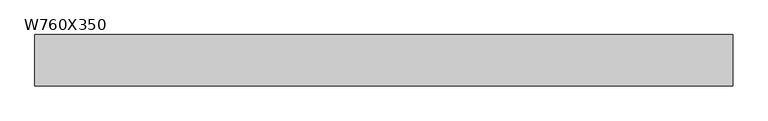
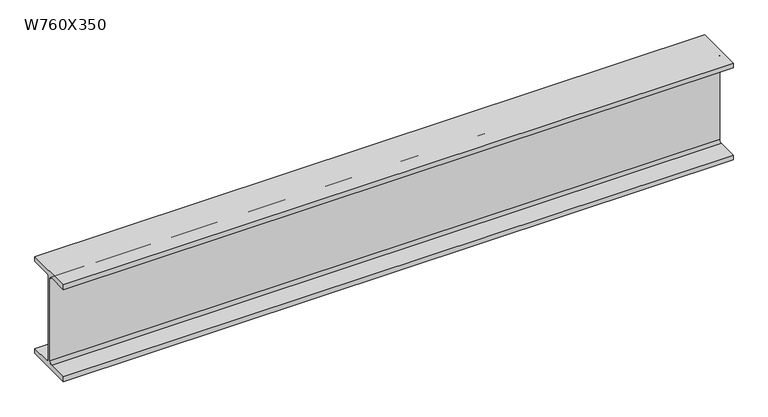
"""IFC4 building model written with IfcOpenShell, lengths in millimetres: beam geometry, M_W-Wide Flange : W760X350."""

import ifcopenshell
import ifcopenshell.guid

model = None  # the IFC model being written
_history = None  # IfcOwnerHistory: only IFC2X3 demands one
_inside = {}  # id of a spatial element -> (the spatial element, [elements in it])
_under = {}  # id of a project, library or spatial element -> (it, [spatial elements below it])
_declared = {}  # id of a project -> (the project, [libraries it declares])
_typed = {}  # id of a type object -> (the type object, [elements of that type])
_made_of = {}  # id of a material, layer set ... -> (it, [elements and type objects made of it])


def new_model(schema):
    """Start an empty IFC model of exactly this schema.

    Asked for "IFC4X3", IfcOpenShell would pick the latest addendum, in which some entities
    have other attributes; the version numbers below select the first issue.
    IFC2X3 requires an IfcOwnerHistory on every rooted entity: one is made here for all.
    """
    global model, _history
    if schema == "IFC4X3":
        model = ifcopenshell.file(schema_version=(4, 3, 0, 0))
    else:
        model = ifcopenshell.file(schema=schema)
    _inside.clear()
    _under.clear()
    _declared.clear()
    _typed.clear()
    _made_of.clear()
    _history = None
    if model.schema == "IFC2X3":
        org = make("IfcOrganization", Name="unknown")
        user = make(
            "IfcPersonAndOrganization",
            ThePerson=make("IfcPerson", FamilyName="unknown"),
            TheOrganization=org,
        )
        app = make(
            "IfcApplication",
            ApplicationDeveloper=org,
            Version="unknown",
            ApplicationFullName="unknown",
            ApplicationIdentifier="unknown",
        )
        _history = make(
            "IfcOwnerHistory",
            OwningUser=user,
            OwningApplication=app,
            ChangeAction="ADDED",
            CreationDate=0,
        )
    return model


def make(cls, **values):
    """One entity of the class cls with the attributes given. An attribute that is None is left unset."""
    return model.create_entity(
        cls, **{name: value for name, value in values.items() if value is not None}
    )


def rooted(cls, **values):
    """An entity with a GlobalId (a new one), such as an element, a storey or a relation."""
    return make(cls, GlobalId=ifcopenshell.guid.new(), OwnerHistory=_history, **values)


def si_unit(unit_type, name, prefix=None):
    """IfcSIUnit, for example si_unit("LENGTHUNIT", "METRE", prefix="MILLI")."""
    return make("IfcSIUnit", UnitType=unit_type, Prefix=prefix, Name=name)


def assignment(units):
    """IfcUnitAssignment: the units of a project."""
    return None if units is None else make("IfcUnitAssignment", Units=units)


def point(xyz):
    """IfcCartesianPoint."""
    return None if xyz is None else make("IfcCartesianPoint", Coordinates=xyz)


def direction(xyz):
    """IfcDirection."""
    return None if xyz is None else make("IfcDirection", DirectionRatios=xyz)


def frame(location, z_axis=None, x_axis=None):
    """IfcAxis2Placement3D, a coordinate frame: its origin and axes. An axis left out is left unset."""
    return make(
        "IfcAxis2Placement3D",
        Location=point(location),
        Axis=direction(z_axis),
        RefDirection=direction(x_axis),
    )


def frame_2d(location, x_axis=None):
    """IfcAxis2Placement2D, a coordinate frame in the plane: its origin and x axis."""
    return make(
        "IfcAxis2Placement2D", Location=point(location), RefDirection=direction(x_axis)
    )


def origin():
    """The frame at (0, 0, 0) with its axes left unset."""
    return frame((0.0, 0.0, 0.0))


def place(relative_to, where):
    """IfcLocalPlacement: puts the frame where relative to a parent placement (None: the world)."""
    return make(
        "IfcLocalPlacement", PlacementRelTo=relative_to, RelativePlacement=where
    )


def context(
    kind, dimensions, precision=None, world=None, true_north=None, identifier=None
):
    """IfcGeometricRepresentationContext, for example the 3D "Model" context."""
    return make(
        "IfcGeometricRepresentationContext",
        ContextIdentifier=identifier,
        ContextType=kind,
        CoordinateSpaceDimension=dimensions,
        Precision=precision,
        WorldCoordinateSystem=world,
        TrueNorth=true_north,
    )


def project(units=None, contexts=None):
    """IfcProject with its units and contexts."""
    return rooted(
        "IfcProject",
        Name="project",
        RepresentationContexts=contexts,
        UnitsInContext=assignment(units),
    )


def spatial(cls, under=None, at=None, **own):
    """A site, building, storey or space (cls), placed at a placement, below another one or the project."""
    s = rooted(cls, ObjectPlacement=at, **own)
    if under is not None:
        _under.setdefault(under.id(), (under, []))[1].append(s)
    return s


def polyline(points):
    """IfcPolyline through the points."""
    return make("IfcPolyline", Points=[point(p) for p in points])


def circle_curve(where, radius):
    """IfcCircle in the frame where."""
    return make("IfcCircle", Position=where, Radius=radius)


def trimmed(basis, trim1, trim2, sense, master):
    """IfcTrimmedCurve: the piece of a basis curve between two trims."""
    return make(
        "IfcTrimmedCurve",
        BasisCurve=basis,
        Trim1=trim1,
        Trim2=trim2,
        SenseAgreement=sense,
        MasterRepresentation=master,
    )


def segment(curve, same_sense, transition):
    """IfcCompositeCurveSegment."""
    return make(
        "IfcCompositeCurveSegment",
        Transition=transition,
        SameSense=same_sense,
        ParentCurve=curve,
    )


def composite_curve(segments, self_intersect=None):
    """IfcCompositeCurve: segments joined end to end."""
    return make("IfcCompositeCurve", Segments=segments, SelfIntersect=self_intersect)


def outline(outer, holes=None, kind="AREA"):
    """IfcArbitraryClosedProfileDef: a profile drawn as a closed curve; with holes, ...WithVoids."""
    if holes is None:
        return make("IfcArbitraryClosedProfileDef", ProfileType=kind, OuterCurve=outer)
    return make(
        "IfcArbitraryProfileDefWithVoids",
        ProfileType=kind,
        OuterCurve=outer,
        InnerCurves=holes,
    )


def extrude(swept, where, along, depth):
    """IfcExtrudedAreaSolid: the profile swept, set in the frame where, extruded along a direction by depth."""
    return make(
        "IfcExtrudedAreaSolid",
        SweptArea=swept,
        Position=where,
        ExtrudedDirection=direction(along),
        Depth=depth,
    )


def shape(context_of_items, identifier, shape_type, items):
    """IfcShapeRepresentation: the items that make up one representation, for example the "Body"."""
    return make(
        "IfcShapeRepresentation",
        ContextOfItems=context_of_items,
        RepresentationIdentifier=identifier,
        RepresentationType=shape_type,
        Items=items,
    )


def source(mapping_origin, context_of_items, identifier, shape_type, items):
    """IfcRepresentationMap: a shape defined once, which mapped items show again and again."""
    return make(
        "IfcRepresentationMap",
        MappingOrigin=mapping_origin,
        MappedRepresentation=shape(context_of_items, identifier, shape_type, items),
    )


def transform(
    local_origin,
    x_axis=None,
    y_axis=None,
    z_axis=None,
    scale=None,
    scale2=None,
    scale3=None,
    uniform=True,
):
    """IfcCartesianTransformationOperator3D, or its non-uniform kind. x_axis, y_axis, z_axis: its Axis1, 2, 3."""
    if uniform:
        return make(
            "IfcCartesianTransformationOperator3D",
            Axis1=direction(x_axis),
            Axis2=direction(y_axis),
            LocalOrigin=point(local_origin),
            Scale=scale,
            Axis3=direction(z_axis),
        )
    return make(
        "IfcCartesianTransformationOperator3DnonUniform",
        Axis1=direction(x_axis),
        Axis2=direction(y_axis),
        LocalOrigin=point(local_origin),
        Scale=scale,
        Axis3=direction(z_axis),
        Scale2=scale2,
        Scale3=scale3,
    )


def mapped(mapping_source, mapping_target):
    """IfcMappedItem: shows the shape of a source again, moved by a transform."""
    return make(
        "IfcMappedItem", MappingSource=mapping_source, MappingTarget=mapping_target
    )


def made_of(thing, what):
    """Note that an element or type object is made of a material, layer set ...; save() writes the relation."""
    if what is not None:
        _made_of.setdefault(what.id(), (what, []))[1].append(thing)
    return thing


def element(
    cls,
    number,
    at=None,
    inside=None,
    cuts=None,
    type_object=None,
    material=None,
    context=None,
    identifier="Body",
    shape_type=None,
    held_by="IfcProductDefinitionShape",
    body=None,
    shapes=None,
    **own,
):
    """One element of the class cls, such as IfcWall. Its Tag is "e" and its number.

    at: its placement. inside: the storey or other place that contains it. cuts: it is an
    opening in that element (IfcRelVoidsElement). A single representation is given by context,
    identifier, shape_type and body (its items); several are given by shapes. held_by: the class
    of the entity that holds the representations. save() writes the other relations.
    """
    e = rooted(cls, Tag="e%d" % number, ObjectPlacement=at, **own)
    if body is not None:
        shapes = [shape(context, identifier, shape_type, body)]
    if shapes is not None:
        e.Representation = make(held_by, Representations=shapes)
    if inside is not None:
        _inside.setdefault(inside.id(), (inside, []))[1].append(e)
    if cuts is not None:
        rooted(
            "IfcRelVoidsElement", RelatingBuildingElement=cuts, RelatedOpeningElement=e
        )
    if type_object is not None:
        _typed.setdefault(type_object.id(), (type_object, []))[1].append(e)
    return made_of(e, material)


def aggregate(whole, parts):
    """IfcRelAggregates: a whole, such as a stair, and the parts it consists of."""
    return rooted("IfcRelAggregates", RelatingObject=whole, RelatedObjects=parts)


def save(model, path):
    """Write the relations noted so far, then the file.

    IfcRelAggregates (storeys below a building ...), IfcRelContainedInSpatialStructure (elements
    in a storey), IfcRelDefinesByType, IfcRelAssociatesMaterial and IfcRelDeclares: one each for
    every whole, place, type object, material and project.
    """
    for whole, parts in _under.values():
        aggregate(whole, parts)
    for where, things in _inside.values():
        rooted(
            "IfcRelContainedInSpatialStructure",
            RelatedElements=things,
            RelatingStructure=where,
        )
    for kind, things in _typed.values():
        rooted("IfcRelDefinesByType", RelatedObjects=things, RelatingType=kind)
    for what, things in _made_of.values():
        rooted("IfcRelAssociatesMaterial", RelatedObjects=things, RelatingMaterial=what)
    for by, libraries in _declared.values():
        rooted("IfcRelDeclares", RelatingContext=by, RelatedDefinitions=libraries)
    model.write(path)


def w760x350_d152c47d(model_context):
    return source(origin(), model_context, "Body", "SweptSolid", [
        extrude(outline(composite_curve([segment(polyline([(192.0, -359.4), (192.0, -397.5), (-192.0, -397.5), (-192.0, -359.4), (-32.75, -359.4)]), True, "CONTINUOUS"), segment(trimmed(circle_curve(frame_2d((-32.75, -337.2)), 22.2), [point((-32.75, -359.4))], [point((-10.55, -337.2))], True, "CARTESIAN"), True, "CONTINUOUS"), segment(polyline([(-10.55, -337.2), (-10.55, 337.2)]), True, "CONTINUOUS"), segment(trimmed(circle_curve(frame_2d((-32.75, 337.2)), 22.2), [point((-10.55, 337.2))], [point((-32.75, 359.4))], True, "CARTESIAN"), True, "CONTINUOUS"), segment(polyline([(-32.75, 359.4), (-192.0, 359.4), (-192.0, 397.5), (192.0, 397.5), (192.0, 359.4), (32.75, 359.4)]), True, "CONTINUOUS"), segment(trimmed(circle_curve(frame_2d((32.75, 337.2)), 22.2), [point((32.75, 359.4))], [point((10.55, 337.2))], True, "CARTESIAN"), True, "CONTINUOUS"), segment(polyline([(10.55, 337.2), (10.55, -337.2)]), True, "CONTINUOUS"), segment(trimmed(circle_curve(frame_2d((32.75, -337.2)), 22.2), [point((10.55, -337.2))], [point((32.75, -359.4))], True, "CARTESIAN"), True, "CONTINUOUS"), segment(polyline([(32.75, -359.4), (192.0, -359.4)]), True, "CONTINUOUS")], self_intersect=False)), frame((-2608.2945019, 0.0, 0.0), z_axis=(1.0, 0.0, 0.0), x_axis=(0.0, 1.0, 0.0)), (0.0, 0.0, 1.0), 5211.6),
    ])


if __name__ == "__main__":
    model = new_model("IFC4")
    model_context = context("Model", 3, world=origin())
    ifc_project = project(units=[si_unit("LENGTHUNIT", "METRE", prefix="MILLI")], contexts=[model_context])
    site = spatial("IfcSite", under=ifc_project)
    building = spatial("IfcBuilding", under=site)
    placement = place(None, origin())
    w760x350_shape = w760x350_d152c47d(model_context)
    element("IfcBeam", 1, ObjectType="M_W-Wide Flange : W760X350", at=placement, inside=building, context=model_context, shape_type="MappedRepresentation", body=[
        mapped(w760x350_shape, transform((0.0, 0.0, 0.0), x_axis=(1.0, 0.0, 0.0), y_axis=(0.0, 1.0, 0.0), z_axis=(0.0, 0.0, 1.0))),
    ])
    save(model, "model.ifc")
